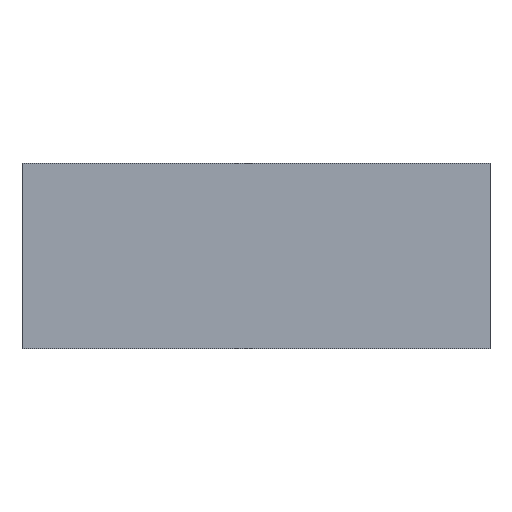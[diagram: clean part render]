
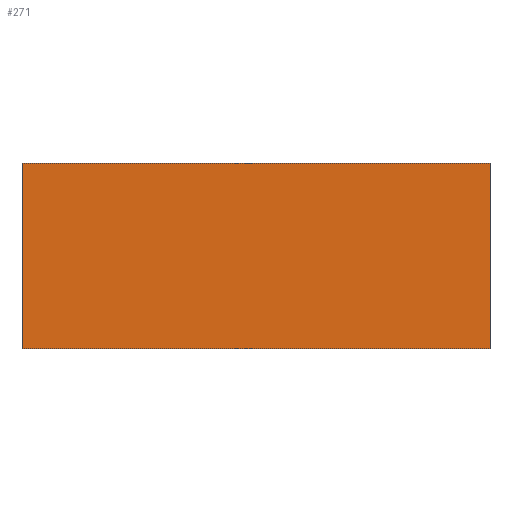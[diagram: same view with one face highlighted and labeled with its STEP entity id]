
A CAD part, front view. The second image highlights one B-rep face of the part: STEP entity #271.
In plain terms, the highlighted planar face has unit normal (0, -1, 0).
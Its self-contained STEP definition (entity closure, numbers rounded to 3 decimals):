
#8 = FACE_OUTER_BOUND ( 'NONE', #16, .T. ) ;
#13 = LINE ( 'NONE', #487, #184 ) ;
#16 = EDGE_LOOP ( 'NONE', ( #53, #93, #92, #69 ) ) ;
#37 = VECTOR ( 'NONE', #468, 1000. ) ;
#38 = LINE ( 'NONE', #467, #37 ) ;
#53 = ORIENTED_EDGE ( 'NONE', *, *, #277, .T. ) ;
#64 = VECTOR ( 'NONE', #466, 1000. ) ;
#69 = ORIENTED_EDGE ( 'NONE', *, *, #278, .T. ) ;
#92 = ORIENTED_EDGE ( 'NONE', *, *, #289, .F. ) ;
#93 = ORIENTED_EDGE ( 'NONE', *, *, #308, .F. ) ;
#183 = LINE ( 'NONE', #465, #64 ) ;
#184 = VECTOR ( 'NONE', #488, 1000. ) ;
#224 = LINE ( 'NONE', #525, #225 ) ;
#225 = VECTOR ( 'NONE', #526, 1000. ) ;
#271 = ADVANCED_FACE ( 'NONE', ( #8 ), #452, .F. ) ;
#277 = EDGE_CURVE ( 'NONE', #370, #388, #183, .T. ) ;
#278 = EDGE_CURVE ( 'NONE', #380, #370, #38, .T. ) ;
#289 = EDGE_CURVE ( 'NONE', #380, #371, #13, .T. ) ;
#308 = EDGE_CURVE ( 'NONE', #371, #388, #224, .T. ) ;
#340 = AXIS2_PLACEMENT_3D ( 'NONE', #433, #439, #440 ) ;
#370 = VERTEX_POINT ( 'NONE', #568 ) ;
#371 = VERTEX_POINT ( 'NONE', #569 ) ;
#380 = VERTEX_POINT ( 'NONE', #578 ) ;
#388 = VERTEX_POINT ( 'NONE', #586 ) ;
#433 = CARTESIAN_POINT ( 'NONE',  ( -151., 0., 120. ) ) ;
#439 = DIRECTION ( 'NONE',  ( 0., 1., 0. ) ) ;
#440 = DIRECTION ( 'NONE',  ( -1., 0., 0. ) ) ;
#452 = PLANE ( 'NONE',  #340 ) ;
#465 = CARTESIAN_POINT ( 'NONE',  ( -151., 0., 0. ) ) ;
#466 = DIRECTION ( 'NONE',  ( 1., 0., 0. ) ) ;
#467 = CARTESIAN_POINT ( 'NONE',  ( -151., 0., 120. ) ) ;
#468 = DIRECTION ( 'NONE',  ( 0., 0., -1. ) ) ;
#487 = CARTESIAN_POINT ( 'NONE',  ( -151., 0., 120. ) ) ;
#488 = DIRECTION ( 'NONE',  ( 1., 0., 0. ) ) ;
#525 = CARTESIAN_POINT ( 'NONE',  ( 151., 0., 120. ) ) ;
#526 = DIRECTION ( 'NONE',  ( 0., 0., -1. ) ) ;
#568 = CARTESIAN_POINT ( 'NONE',  ( -151., 0., 0. ) ) ;
#569 = CARTESIAN_POINT ( 'NONE',  ( 151., 0., 120. ) ) ;
#578 = CARTESIAN_POINT ( 'NONE',  ( -151., 0., 120. ) ) ;
#586 = CARTESIAN_POINT ( 'NONE',  ( 151., 0., 0. ) ) ;
